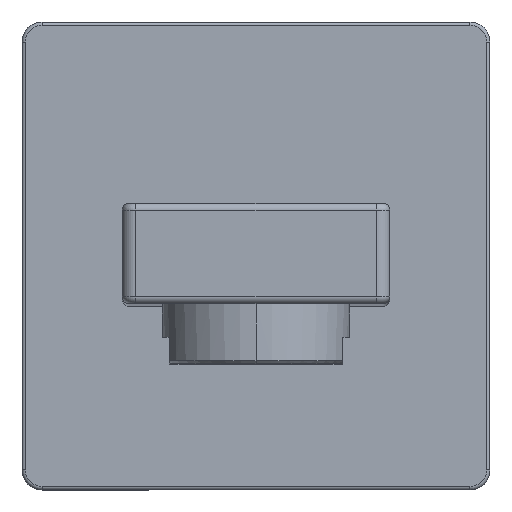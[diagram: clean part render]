
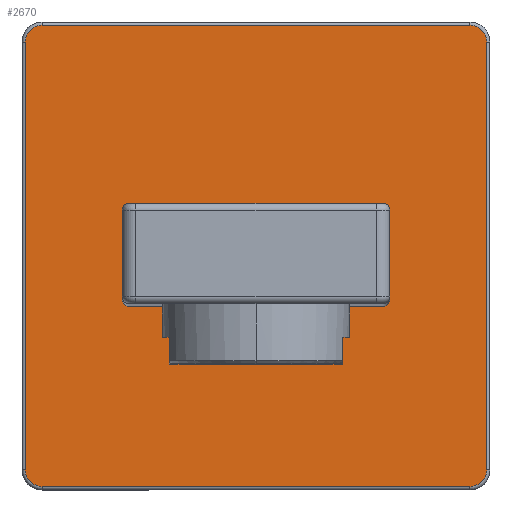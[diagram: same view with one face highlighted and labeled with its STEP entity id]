
A CAD part, top view. The second image highlights one B-rep face of the part: STEP entity #2670.
In plain terms, the highlighted planar face has unit normal (0, 0, 1).
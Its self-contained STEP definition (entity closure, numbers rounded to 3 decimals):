
#51 = DIRECTION ( 'NONE',  ( 1., 0., 0. ) ) ;
#69 = DIRECTION ( 'NONE',  ( -1., 0., 0. ) ) ;
#154 = EDGE_CURVE ( 'NONE', #1621, #4969, #1138, .T. ) ;
#344 = VERTEX_POINT ( 'NONE', #3071 ) ;
#390 = ORIENTED_EDGE ( 'NONE', *, *, #3337, .T. ) ;
#397 = ORIENTED_EDGE ( 'NONE', *, *, #1913, .T. ) ;
#399 = ORIENTED_EDGE ( 'NONE', *, *, #5115, .F. ) ;
#405 = EDGE_LOOP ( 'NONE', ( #677, #2333 ) ) ;
#410 = CARTESIAN_POINT ( 'NONE',  ( 0., 0., 3. ) ) ;
#419 = EDGE_CURVE ( 'NONE', #344, #1153, #3199, .T. ) ;
#463 = ORIENTED_EDGE ( 'NONE', *, *, #2809, .T. ) ;
#471 = CARTESIAN_POINT ( 'NONE',  ( 0., 0., 3. ) ) ;
#540 = CARTESIAN_POINT ( 'NONE',  ( -32., 32., 3. ) ) ;
#566 = DIRECTION ( 'NONE',  ( 1., 0., 0. ) ) ;
#579 = VECTOR ( 'NONE', #4288, 1000. ) ;
#595 = CARTESIAN_POINT ( 'NONE',  ( -32., -32., 3. ) ) ;
#598 = VERTEX_POINT ( 'NONE', #3835 ) ;
#601 = CARTESIAN_POINT ( 'NONE',  ( 32., -34.5, 3. ) ) ;
#677 = ORIENTED_EDGE ( 'NONE', *, *, #1705, .F. ) ;
#722 = CIRCLE ( 'NONE', #3241, 1.55 ) ;
#795 = AXIS2_PLACEMENT_3D ( 'NONE', #1227, #4723, #1995 ) ;
#804 = CARTESIAN_POINT ( 'NONE',  ( 32., -32., 3. ) ) ;
#883 = EDGE_CURVE ( 'NONE', #4969, #2961, #3075, .T. ) ;
#906 = DIRECTION ( 'NONE',  ( 0., 0., 1. ) ) ;
#934 = FACE_BOUND ( 'NONE', #405, .T. ) ;
#992 = CARTESIAN_POINT ( 'NONE',  ( 34.5, 32., 3. ) ) ;
#1023 = CIRCLE ( 'NONE', #5806, 1.55 ) ;
#1059 = ORIENTED_EDGE ( 'NONE', *, *, #154, .T. ) ;
#1068 = DIRECTION ( 'NONE',  ( 0., 0., 1. ) ) ;
#1078 = LINE ( 'NONE', #4140, #2499 ) ;
#1138 = LINE ( 'NONE', #5637, #579 ) ;
#1150 = ORIENTED_EDGE ( 'NONE', *, *, #2680, .F. ) ;
#1153 = VERTEX_POINT ( 'NONE', #1620 ) ;
#1160 = CARTESIAN_POINT ( 'NONE',  ( 12.45, 0., 3. ) ) ;
#1200 = CIRCLE ( 'NONE', #5338, 2.5 ) ;
#1204 = CARTESIAN_POINT ( 'NONE',  ( -15.55, 0., 3. ) ) ;
#1226 = CARTESIAN_POINT ( 'NONE',  ( -12.45, 0., 3. ) ) ;
#1227 = CARTESIAN_POINT ( 'NONE',  ( -14., 0., 3. ) ) ;
#1265 = EDGE_CURVE ( 'NONE', #5329, #1621, #1200, .T. ) ;
#1355 = CARTESIAN_POINT ( 'NONE',  ( 34.5, -32., 3. ) ) ;
#1361 = DIRECTION ( 'NONE',  ( 1., 0., 0. ) ) ;
#1371 = CIRCLE ( 'NONE', #2131, 1.55 ) ;
#1393 = FACE_BOUND ( 'NONE', #3407, .T. ) ;
#1564 = VERTEX_POINT ( 'NONE', #1160 ) ;
#1620 = CARTESIAN_POINT ( 'NONE',  ( -7.5, 0., 3. ) ) ;
#1621 = VERTEX_POINT ( 'NONE', #1355 ) ;
#1672 = CARTESIAN_POINT ( 'NONE',  ( -32., -34.5, 3. ) ) ;
#1705 = EDGE_CURVE ( 'NONE', #4061, #1564, #1023, .T. ) ;
#1735 = EDGE_CURVE ( 'NONE', #1153, #344, #2235, .T. ) ;
#1913 = EDGE_CURVE ( 'NONE', #2961, #4369, #3733, .T. ) ;
#1995 = DIRECTION ( 'NONE',  ( 1., 0., 0. ) ) ;
#2062 = AXIS2_PLACEMENT_3D ( 'NONE', #2688, #2663, #3922 ) ;
#2131 = AXIS2_PLACEMENT_3D ( 'NONE', #3132, #2728, #2257 ) ;
#2151 = DIRECTION ( 'NONE',  ( 0., 0., 1. ) ) ;
#2191 = VERTEX_POINT ( 'NONE', #2681 ) ;
#2231 = CIRCLE ( 'NONE', #5341, 2.5 ) ;
#2235 = CIRCLE ( 'NONE', #2062, 7.5 ) ;
#2257 = DIRECTION ( 'NONE',  ( 1., 0., 0. ) ) ;
#2290 = VECTOR ( 'NONE', #1361, 1000. ) ;
#2326 = DIRECTION ( 'NONE',  ( 1., 0., 0. ) ) ;
#2333 = ORIENTED_EDGE ( 'NONE', *, *, #2612, .F. ) ;
#2379 = CARTESIAN_POINT ( 'NONE',  ( 32., 32., 3. ) ) ;
#2499 = VECTOR ( 'NONE', #2808, 1000. ) ;
#2529 = ORIENTED_EDGE ( 'NONE', *, *, #3346, .T. ) ;
#2580 = CIRCLE ( 'NONE', #795, 1.55 ) ;
#2612 = EDGE_CURVE ( 'NONE', #1564, #4061, #722, .T. ) ;
#2614 = AXIS2_PLACEMENT_3D ( 'NONE', #595, #4131, #3651 ) ;
#2642 = CARTESIAN_POINT ( 'NONE',  ( 32., -34.5, 3. ) ) ;
#2644 = DIRECTION ( 'NONE',  ( 0., 0., 1. ) ) ;
#2663 = DIRECTION ( 'NONE',  ( 0., 0., 1. ) ) ;
#2670 = ADVANCED_FACE ( 'NONE', ( #3073, #5440, #934, #1393 ), #4052, .T. ) ;
#2680 = EDGE_CURVE ( 'NONE', #4582, #3826, #1371, .T. ) ;
#2681 = CARTESIAN_POINT ( 'NONE',  ( -34.5, 32., 3. ) ) ;
#2688 = CARTESIAN_POINT ( 'NONE',  ( 0., 0., 3. ) ) ;
#2728 = DIRECTION ( 'NONE',  ( 0., 0., 1. ) ) ;
#2808 = DIRECTION ( 'NONE',  ( 0., -1., 0. ) ) ;
#2809 = EDGE_CURVE ( 'NONE', #2191, #598, #1078, .T. ) ;
#2831 = AXIS2_PLACEMENT_3D ( 'NONE', #410, #906, #3991 ) ;
#2898 = VECTOR ( 'NONE', #69, 1000. ) ;
#2961 = VERTEX_POINT ( 'NONE', #5635 ) ;
#3006 = ORIENTED_EDGE ( 'NONE', *, *, #1265, .T. ) ;
#3071 = CARTESIAN_POINT ( 'NONE',  ( 7.5, 0., 3. ) ) ;
#3073 = FACE_OUTER_BOUND ( 'NONE', #4801, .T. ) ;
#3075 = CIRCLE ( 'NONE', #3829, 2.5 ) ;
#3096 = DIRECTION ( 'NONE',  ( 1., 0., 0. ) ) ;
#3132 = CARTESIAN_POINT ( 'NONE',  ( -14., 0., 3. ) ) ;
#3154 = ORIENTED_EDGE ( 'NONE', *, *, #883, .T. ) ;
#3199 = CIRCLE ( 'NONE', #2831, 7.5 ) ;
#3241 = AXIS2_PLACEMENT_3D ( 'NONE', #5326, #2644, #3962 ) ;
#3337 = EDGE_CURVE ( 'NONE', #4369, #2191, #2231, .T. ) ;
#3346 = EDGE_CURVE ( 'NONE', #598, #3817, #3915, .T. ) ;
#3407 = EDGE_LOOP ( 'NONE', ( #3723, #5169 ) ) ;
#3651 = DIRECTION ( 'NONE',  ( 1., 0., 0. ) ) ;
#3720 = ORIENTED_EDGE ( 'NONE', *, *, #5227, .T. ) ;
#3723 = ORIENTED_EDGE ( 'NONE', *, *, #419, .F. ) ;
#3733 = LINE ( 'NONE', #4100, #2898 ) ;
#3817 = VERTEX_POINT ( 'NONE', #1672 ) ;
#3826 = VERTEX_POINT ( 'NONE', #1226 ) ;
#3829 = AXIS2_PLACEMENT_3D ( 'NONE', #2379, #4612, #566 ) ;
#3835 = CARTESIAN_POINT ( 'NONE',  ( -34.5, -32., 3. ) ) ;
#3915 = CIRCLE ( 'NONE', #2614, 2.5 ) ;
#3922 = DIRECTION ( 'NONE',  ( 1., 0., 0. ) ) ;
#3953 = CARTESIAN_POINT ( 'NONE',  ( 14., 0., 3. ) ) ;
#3962 = DIRECTION ( 'NONE',  ( 1., 0., 0. ) ) ;
#3991 = DIRECTION ( 'NONE',  ( 1., 0., 0. ) ) ;
#4052 = PLANE ( 'NONE',  #5420 ) ;
#4061 = VERTEX_POINT ( 'NONE', #5164 ) ;
#4100 = CARTESIAN_POINT ( 'NONE',  ( -32., 34.5, 3. ) ) ;
#4131 = DIRECTION ( 'NONE',  ( 0., 0., 1. ) ) ;
#4140 = CARTESIAN_POINT ( 'NONE',  ( -34.5, -32., 3. ) ) ;
#4288 = DIRECTION ( 'NONE',  ( 0., 1., 0. ) ) ;
#4369 = VERTEX_POINT ( 'NONE', #5001 ) ;
#4436 = LINE ( 'NONE', #2642, #2290 ) ;
#4582 = VERTEX_POINT ( 'NONE', #1204 ) ;
#4612 = DIRECTION ( 'NONE',  ( 0., 0., 1. ) ) ;
#4723 = DIRECTION ( 'NONE',  ( 0., 0., 1. ) ) ;
#4801 = EDGE_LOOP ( 'NONE', ( #397, #390, #463, #2529, #3720, #3006, #1059, #3154 ) ) ;
#4900 = DIRECTION ( 'NONE',  ( 0., 0., 1. ) ) ;
#4969 = VERTEX_POINT ( 'NONE', #992 ) ;
#5001 = CARTESIAN_POINT ( 'NONE',  ( -32., 34.5, 3. ) ) ;
#5115 = EDGE_CURVE ( 'NONE', #3826, #4582, #2580, .T. ) ;
#5164 = CARTESIAN_POINT ( 'NONE',  ( 15.55, 0., 3. ) ) ;
#5169 = ORIENTED_EDGE ( 'NONE', *, *, #1735, .F. ) ;
#5227 = EDGE_CURVE ( 'NONE', #3817, #5329, #4436, .T. ) ;
#5304 = DIRECTION ( 'NONE',  ( 1., 0., 0. ) ) ;
#5326 = CARTESIAN_POINT ( 'NONE',  ( 14., 0., 3. ) ) ;
#5329 = VERTEX_POINT ( 'NONE', #601 ) ;
#5338 = AXIS2_PLACEMENT_3D ( 'NONE', #804, #2151, #5304 ) ;
#5341 = AXIS2_PLACEMENT_3D ( 'NONE', #540, #1068, #2326 ) ;
#5420 = AXIS2_PLACEMENT_3D ( 'NONE', #471, #5759, #51 ) ;
#5440 = FACE_BOUND ( 'NONE', #5513, .T. ) ;
#5513 = EDGE_LOOP ( 'NONE', ( #399, #1150 ) ) ;
#5635 = CARTESIAN_POINT ( 'NONE',  ( 32., 34.5, 3. ) ) ;
#5637 = CARTESIAN_POINT ( 'NONE',  ( 34.5, 32., 3. ) ) ;
#5759 = DIRECTION ( 'NONE',  ( 0., 0., 1. ) ) ;
#5806 = AXIS2_PLACEMENT_3D ( 'NONE', #3953, #4900, #3096 ) ;
